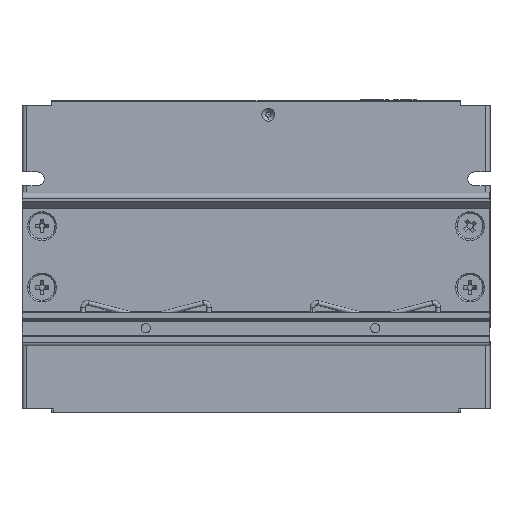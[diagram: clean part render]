
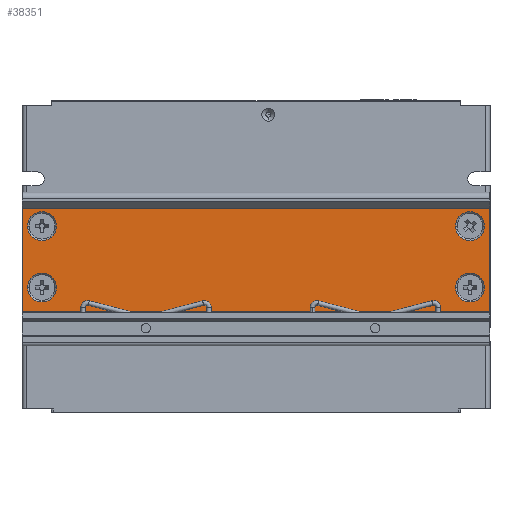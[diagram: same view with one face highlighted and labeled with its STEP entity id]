
A CAD part, front view. The second image highlights one B-rep face of the part: STEP entity #38351.
In plain terms, the highlighted planar face has unit normal (0, -1, 0) as drawn and (0, 0, 1) by its records, which use the part's own axes.
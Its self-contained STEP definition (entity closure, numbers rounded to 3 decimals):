
#2925 = DIRECTION ( 'NONE',  ( 0., 0., 1. ) ) ;
#10858 = CIRCLE ( 'NONE', #173777, 4.7 ) ;
#12074 = VERTEX_POINT ( 'NONE', #101353 ) ;
#13430 = VERTEX_POINT ( 'NONE', #114779 ) ;
#15306 = EDGE_LOOP ( 'NONE', ( #148129, #78177 ) ) ;
#16201 = DIRECTION ( 'NONE',  ( 1., 0., 0. ) ) ;
#17253 = CARTESIAN_POINT ( 'NONE',  ( 76.2, 38.8, -4.5 ) ) ;
#17825 = DIRECTION ( 'NONE',  ( 1., 0., 0. ) ) ;
#18140 = AXIS2_PLACEMENT_3D ( 'NONE', #117130, #2925, #136193 ) ;
#19996 = VERTEX_POINT ( 'NONE', #39171 ) ;
#20316 = CARTESIAN_POINT ( 'NONE',  ( -74.4, 31., -4.5 ) ) ;
#20634 = DIRECTION ( 'NONE',  ( 0., 0., 1. ) ) ;
#23413 = VECTOR ( 'NONE', #237831, 1000. ) ;
#27038 = DIRECTION ( 'NONE',  ( 0., 0., 1. ) ) ;
#28220 = EDGE_LOOP ( 'NONE', ( #208320, #76356 ) ) ;
#29292 = LINE ( 'NONE', #218618, #23413 ) ;
#32658 = CIRCLE ( 'NONE', #216829, 4.7 ) ;
#33602 = DIRECTION ( 'NONE',  ( 0., 0., 1. ) ) ;
#36362 = EDGE_CURVE ( 'NONE', #119874, #201287, #210444, .T. ) ;
#37561 = FACE_OUTER_BOUND ( 'NONE', #147764, .T. ) ;
#38026 = CARTESIAN_POINT ( 'NONE',  ( 65., 11., -4.5 ) ) ;
#38351 = ADVANCED_FACE ( 'NONE', ( #88307, #189740, #240557, #138959, #37561 ), #124739, .F. ) ;
#39171 = CARTESIAN_POINT ( 'NONE',  ( -76.2, 4.921, -4.5 ) ) ;
#39460 = ORIENTED_EDGE ( 'NONE', *, *, #242291, .T. ) ;
#39591 = ORIENTED_EDGE ( 'NONE', *, *, #167102, .F. ) ;
#41614 = CARTESIAN_POINT ( 'NONE',  ( 65., 31., -4.5 ) ) ;
#44080 = ORIENTED_EDGE ( 'NONE', *, *, #188262, .F. ) ;
#46847 = ORIENTED_EDGE ( 'NONE', *, *, #95336, .F. ) ;
#47448 = AXIS2_PLACEMENT_3D ( 'NONE', #147786, #33602, #167045 ) ;
#52458 = EDGE_CURVE ( 'NONE', #185237, #13430, #181442, .T. ) ;
#58688 = CARTESIAN_POINT ( 'NONE',  ( 76.2, 38.8, -4.5 ) ) ;
#59009 = CARTESIAN_POINT ( 'NONE',  ( -69.7, 31., -4.5 ) ) ;
#64203 = CIRCLE ( 'NONE', #227793, 4.7 ) ;
#64315 = ORIENTED_EDGE ( 'NONE', *, *, #178443, .F. ) ;
#66753 = DIRECTION ( 'NONE',  ( 0., -1., 0. ) ) ;
#76356 = ORIENTED_EDGE ( 'NONE', *, *, #52458, .F. ) ;
#78162 = DIRECTION ( 'NONE',  ( 1., 0., 0. ) ) ;
#78177 = ORIENTED_EDGE ( 'NONE', *, *, #114955, .F. ) ;
#87274 = CARTESIAN_POINT ( 'NONE',  ( 76.2, 38.8, -4.5 ) ) ;
#87359 = VERTEX_POINT ( 'NONE', #204141 ) ;
#88053 = CARTESIAN_POINT ( 'NONE',  ( 76.2, 4.921, -4.5 ) ) ;
#88307 = FACE_BOUND ( 'NONE', #203706, .T. ) ;
#94653 = CIRCLE ( 'NONE', #109079, 4.7 ) ;
#95067 = VECTOR ( 'NONE', #66753, 1000. ) ;
#95336 = EDGE_CURVE ( 'NONE', #101068, #12074, #64203, .T. ) ;
#96202 = DIRECTION ( 'NONE',  ( 0., -1., 0. ) ) ;
#98585 = EDGE_CURVE ( 'NONE', #124351, #121727, #10858, .T. ) ;
#101068 = VERTEX_POINT ( 'NONE', #38026 ) ;
#101353 = CARTESIAN_POINT ( 'NONE',  ( 74.4, 11., -4.5 ) ) ;
#106463 = DIRECTION ( 'NONE',  ( 0., 1., 0. ) ) ;
#109079 = AXIS2_PLACEMENT_3D ( 'NONE', #244712, #130292, #16201 ) ;
#110093 = CARTESIAN_POINT ( 'NONE',  ( 69.7, 31., -4.5 ) ) ;
#114779 = CARTESIAN_POINT ( 'NONE',  ( -65., 11., -4.5 ) ) ;
#114955 = EDGE_CURVE ( 'NONE', #199538, #87359, #214324, .T. ) ;
#117130 = CARTESIAN_POINT ( 'NONE',  ( -69.7, 11., -4.5 ) ) ;
#119874 = VERTEX_POINT ( 'NONE', #17253 ) ;
#121727 = VERTEX_POINT ( 'NONE', #246076 ) ;
#124351 = VERTEX_POINT ( 'NONE', #20316 ) ;
#124739 = PLANE ( 'NONE',  #207896 ) ;
#127275 = CARTESIAN_POINT ( 'NONE',  ( -76.2, 38.8, -4.5 ) ) ;
#129146 = DIRECTION ( 'NONE',  ( 1., 0., 0. ) ) ;
#130292 = DIRECTION ( 'NONE',  ( 0., 0., 1. ) ) ;
#131905 = DIRECTION ( 'NONE',  ( 0., 0., 1. ) ) ;
#133250 = AXIS2_PLACEMENT_3D ( 'NONE', #246262, #131905, #17825 ) ;
#134714 = CARTESIAN_POINT ( 'NONE',  ( 69.7, 11., -4.5 ) ) ;
#136193 = DIRECTION ( 'NONE',  ( 1., 0., 0. ) ) ;
#138959 = FACE_BOUND ( 'NONE', #222121, .T. ) ;
#139078 = EDGE_CURVE ( 'NONE', #87359, #199538, #32658, .T. ) ;
#141182 = CARTESIAN_POINT ( 'NONE',  ( -69.7, 11., -4.5 ) ) ;
#141892 = ORIENTED_EDGE ( 'NONE', *, *, #145575, .F. ) ;
#145575 = EDGE_CURVE ( 'NONE', #121727, #124351, #229795, .T. ) ;
#145713 = LINE ( 'NONE', #161709, #95067 ) ;
#146996 = EDGE_CURVE ( 'NONE', #13430, #185237, #201750, .T. ) ;
#147592 = VECTOR ( 'NONE', #188399, 1000. ) ;
#147764 = EDGE_LOOP ( 'NONE', ( #39460, #39591, #64315, #234115 ) ) ;
#147786 = CARTESIAN_POINT ( 'NONE',  ( 69.7, 31., -4.5 ) ) ;
#148129 = ORIENTED_EDGE ( 'NONE', *, *, #139078, .F. ) ;
#153890 = DIRECTION ( 'NONE',  ( 1., 0., 0. ) ) ;
#160343 = DIRECTION ( 'NONE',  ( 1., 0., 0. ) ) ;
#161709 = CARTESIAN_POINT ( 'NONE',  ( -76.2, 38.8, -4.5 ) ) ;
#167045 = DIRECTION ( 'NONE',  ( 1., 0., 0. ) ) ;
#167102 = EDGE_CURVE ( 'NONE', #238255, #19996, #29292, .T. ) ;
#171677 = CARTESIAN_POINT ( 'NONE',  ( -74.4, 11., -4.5 ) ) ;
#173777 = AXIS2_PLACEMENT_3D ( 'NONE', #59009, #192437, #78162 ) ;
#178443 = EDGE_CURVE ( 'NONE', #119874, #238255, #243446, .T. ) ;
#181442 = CIRCLE ( 'NONE', #18140, 4.7 ) ;
#185237 = VERTEX_POINT ( 'NONE', #171677 ) ;
#188262 = EDGE_CURVE ( 'NONE', #12074, #101068, #94653, .T. ) ;
#188399 = DIRECTION ( 'NONE',  ( -1., 0., 0. ) ) ;
#189740 = FACE_BOUND ( 'NONE', #15306, .T. ) ;
#192437 = DIRECTION ( 'NONE',  ( 0., 0., 1. ) ) ;
#192644 = VECTOR ( 'NONE', #96202, 1000. ) ;
#192885 = AXIS2_PLACEMENT_3D ( 'NONE', #141182, #27038, #160343 ) ;
#195277 = ORIENTED_EDGE ( 'NONE', *, *, #98585, .F. ) ;
#199538 = VERTEX_POINT ( 'NONE', #41614 ) ;
#201287 = VERTEX_POINT ( 'NONE', #127275 ) ;
#201750 = CIRCLE ( 'NONE', #192885, 4.7 ) ;
#203706 = EDGE_LOOP ( 'NONE', ( #44080, #46847 ) ) ;
#204141 = CARTESIAN_POINT ( 'NONE',  ( 74.4, 31., -4.5 ) ) ;
#207617 = CARTESIAN_POINT ( 'NONE',  ( 76.2, 38.8, -4.5 ) ) ;
#207896 = AXIS2_PLACEMENT_3D ( 'NONE', #87274, #220684, #106463 ) ;
#208320 = ORIENTED_EDGE ( 'NONE', *, *, #146996, .F. ) ;
#210444 = LINE ( 'NONE', #207617, #147592 ) ;
#214324 = CIRCLE ( 'NONE', #47448, 4.7 ) ;
#216829 = AXIS2_PLACEMENT_3D ( 'NONE', #110093, #243572, #129146 ) ;
#218618 = CARTESIAN_POINT ( 'NONE',  ( 76.2, 4.921, -4.5 ) ) ;
#220684 = DIRECTION ( 'NONE',  ( 0., 0., -1. ) ) ;
#222121 = EDGE_LOOP ( 'NONE', ( #141892, #195277 ) ) ;
#227793 = AXIS2_PLACEMENT_3D ( 'NONE', #134714, #20634, #153890 ) ;
#229795 = CIRCLE ( 'NONE', #133250, 4.7 ) ;
#234115 = ORIENTED_EDGE ( 'NONE', *, *, #36362, .T. ) ;
#237831 = DIRECTION ( 'NONE',  ( -1., 0., 0. ) ) ;
#238255 = VERTEX_POINT ( 'NONE', #88053 ) ;
#240557 = FACE_BOUND ( 'NONE', #28220, .T. ) ;
#242291 = EDGE_CURVE ( 'NONE', #201287, #19996, #145713, .T. ) ;
#243446 = LINE ( 'NONE', #58688, #192644 ) ;
#243572 = DIRECTION ( 'NONE',  ( 0., 0., 1. ) ) ;
#244712 = CARTESIAN_POINT ( 'NONE',  ( 69.7, 11., -4.5 ) ) ;
#246076 = CARTESIAN_POINT ( 'NONE',  ( -65., 31., -4.5 ) ) ;
#246262 = CARTESIAN_POINT ( 'NONE',  ( -69.7, 31., -4.5 ) ) ;
